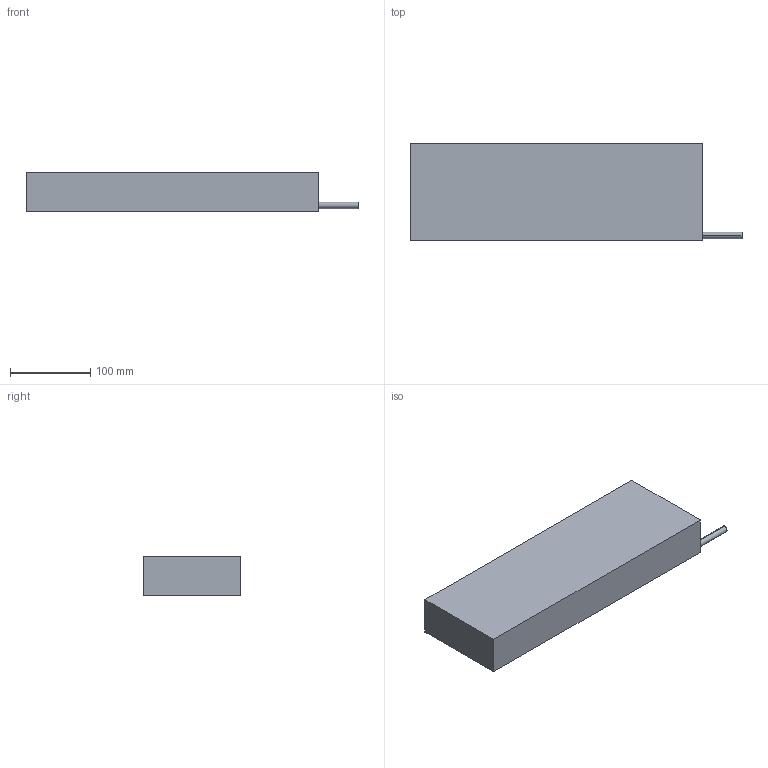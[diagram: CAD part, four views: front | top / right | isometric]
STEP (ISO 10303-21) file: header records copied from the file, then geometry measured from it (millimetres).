
FILE_DESCRIPTION (( 'STEP AP214' ), '1' );
FILE_NAME ('FLM-121-364.STEP', '2022-05-12T08:07:09', ( 'Microsoft' ), ( 'Microsoft' ), 'SwSTEP 2.0', 'SolidWorks 2016', '' );
FILE_SCHEMA (( 'AUTOMOTIVE_DESIGN' ));
Length unit declared in the file: millimetre
Products named in the file (1): FLM-121-364
Bounding box: 413.3 x 121 x 49.3 mm (x, y, z)
Volume: 2170848.5 mm3; surface area: 139733.9 mm2
Topology: 1 solids, 1 shells, 225 faces, 522 edges, 264 vertices
Faces by surface type: cone 144, cylinder 74, plane 7
Entity records: 6606 total; most frequent: DIRECTION 1122, CARTESIAN_POINT 940, ORIENTED_EDGE 900, EDGE_CURVE 450, AXIS2_PLACEMENT_3D 446, VERTEX_POINT 264, EDGE_LOOP 262, VECTOR 230
